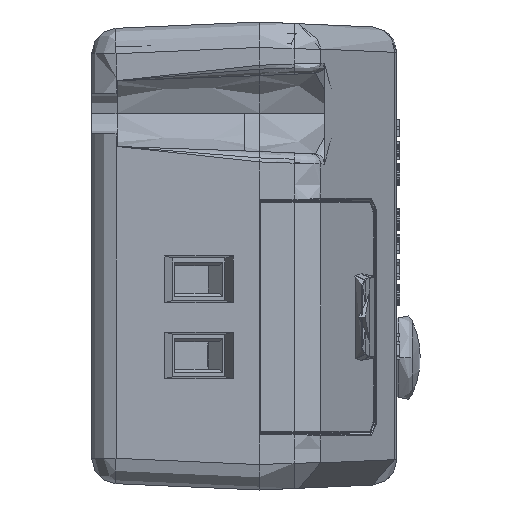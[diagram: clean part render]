
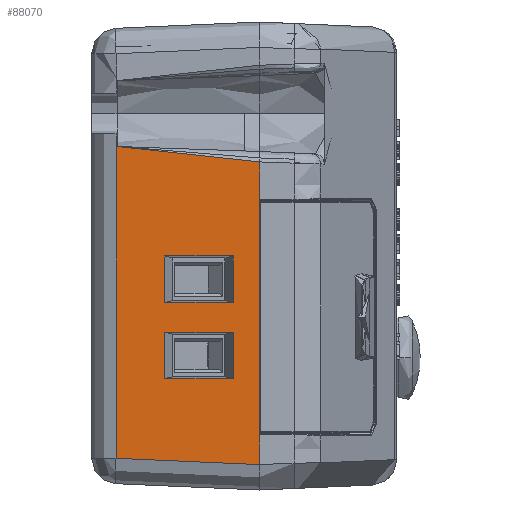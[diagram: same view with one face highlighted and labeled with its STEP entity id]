
A CAD part, left-side view. The second image highlights one B-rep face of the part: STEP entity #88070.
In plain terms, the highlighted planar face has unit normal (-0.999, 0.044, 0) as drawn and (0.999, 0.044, 0) by its records, which use the part's own axes.
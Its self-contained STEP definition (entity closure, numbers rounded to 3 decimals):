
#63710=CARTESIAN_POINT('',(62.436,-11.,
25.487));
#63720=VERTEX_POINT('',#63710);
#63750=CARTESIAN_POINT('',(62.436,-11.,-1.284));
#63760=DIRECTION('',(0.,0.,1.));
#63770=VECTOR('',#63760,1.);
#63780=LINE('',#63750,#63770);
#63790=CARTESIAN_POINT('',(62.436,-11.,
2.394));
#63800=VERTEX_POINT('',#63790);
#63810=EDGE_CURVE('',#63800,#63720,#63780,.T.);
#85600=CARTESIAN_POINT('',(61.82,3.109,
27.85));
#85610=VERTEX_POINT('',#85600);
#86210=CARTESIAN_POINT('',(61.82,3.109,-4.036
));
#86220=DIRECTION('',(0.,0.001,
1.));
#86230=VECTOR('',#86220,1.);
#86240=LINE('',#86210,#86230);
#86250=CARTESIAN_POINT('',(61.82,3.109,-4.036
));
#86260=VERTEX_POINT('',#86250);
#86270=CARTESIAN_POINT('',(61.82,3.11,-2.472
));
#86280=VERTEX_POINT('',#86270);
#86290=EDGE_CURVE('',#86260,#86280,#86240,.T.);
#86310=CARTESIAN_POINT('',(61.82,3.109,27.85)
);
#86320=DIRECTION('',(0.,0.,
-1.));
#86330=VECTOR('',#86320,1.);
#86340=LINE('',#86310,#86330);
#86350=EDGE_CURVE('',#85610,#86280,#86340,.T.);
#86810=CARTESIAN_POINT('',(61.672,6.5,-19.623));
#86820=DIRECTION('',(0.999,0.044,0.));
#86830=DIRECTION('',(0.,0.,-1.));
#86840=AXIS2_PLACEMENT_3D('',#86810,#86820,#86830);
#86850=PLANE('',#86840);
#86860=CARTESIAN_POINT('',(62.436,-11.,0.));
#86870=DIRECTION('',(0.,0.,1.));
#86880=VECTOR('',#86870,1.);
#86890=LINE('',#86860,#86880);
#86900=CARTESIAN_POINT('',(62.436,-11.,
-1.284));
#86910=VERTEX_POINT('',#86900);
#86920=EDGE_CURVE('',#86910,#63800,#86890,.T.);
#86930=ORIENTED_EDGE('',*,*,#86920,.F.);
#86940=ORIENTED_EDGE('',*,*,#63810,.F.);
#86950=CARTESIAN_POINT('',(62.436,-11.,0.));
#86960=DIRECTION('',(0.,0.,1.));
#86970=VECTOR('',#86960,1.);
#86980=LINE('',#86950,#86970);
#86990=CARTESIAN_POINT('',(62.436,-11.,
25.534));
#87000=VERTEX_POINT('',#86990);
#87010=EDGE_CURVE('',#63720,#87000,#86980,.T.);
#87020=ORIENTED_EDGE('',*,*,#87010,.F.);
#87030=CARTESIAN_POINT('',(62.436,-11.,
28.466));
#87040=VERTEX_POINT('',#87030);
#87050=EDGE_CURVE('',#87000,#87040,#86980,.T.);
#87060=ORIENTED_EDGE('',*,*,#87050,.F.);
#87070=CARTESIAN_POINT('',(61.951,0.109,
27.981));
#87080=DIRECTION('',(0.044,-0.998,
0.044));
#87090=VECTOR('',#87080,1.);
#87100=LINE('',#87070,#87090);
#87110=EDGE_CURVE('',#85610,#87040,#87100,.T.);
#87120=ORIENTED_EDGE('',*,*,#87110,.T.);
#87130=ORIENTED_EDGE('',*,*,#86350,.F.);
#87140=ORIENTED_EDGE('',*,*,#86290,.T.);
#87150=CARTESIAN_POINT('',(61.82,3.109,-4.036
));
#87160=DIRECTION('',(0.044,-0.999,
0.));
#87170=VECTOR('',#87160,1.);
#87180=LINE('',#87150,#87170);
#87190=CARTESIAN_POINT('',(61.824,3.011,-4.036
));
#87200=VERTEX_POINT('',#87190);
#87210=EDGE_CURVE('',#86260,#87200,#87180,.T.);
#87220=ORIENTED_EDGE('',*,*,#87210,.F.);
#87230=CARTESIAN_POINT('',(61.824,3.011,-4.036
));
#87240=DIRECTION('',(0.,0.,1.));
#87250=VECTOR('',#87240,1.);
#87260=LINE('',#87230,#87250);
#87270=CARTESIAN_POINT('',(61.824,3.011,
-2.799));
#87280=VERTEX_POINT('',#87270);
#87290=EDGE_CURVE('',#87200,#87280,#87260,.T.);
#87300=ORIENTED_EDGE('',*,*,#87290,.F.);
#87310=CARTESIAN_POINT('',(62.436,-11.,-1.284));
#87320=DIRECTION('',(-0.043,0.993,
-0.107));
#87330=VECTOR('',#87320,1.);
#87340=LINE('',#87310,#87330);
#87350=EDGE_CURVE('',#86910,#87280,#87340,.T.);
#87360=ORIENTED_EDGE('',*,*,#87350,.T.);
#87370=EDGE_LOOP('',(#87360,#87300,#87220,#87140,#87130,#87120,#87060,
#87020,#86940,#86930));
#87380=FACE_OUTER_BOUND('',#87370,.T.);
#87390=CARTESIAN_POINT('',(62.029,-1.671,20.027
));
#87400=DIRECTION('',(0.,0.,-1.));
#87410=VECTOR('',#87400,1.);
#87420=LINE('',#87390,#87410);
#87430=CARTESIAN_POINT('',(62.029,-1.671,20.027
));
#87440=VERTEX_POINT('',#87430);
#87450=CARTESIAN_POINT('',(62.029,-1.671,15.441
));
#87460=VERTEX_POINT('',#87450);
#87470=EDGE_CURVE('',#87440,#87460,#87420,.T.);
#87480=ORIENTED_EDGE('',*,*,#87470,.T.);
#87490=CARTESIAN_POINT('',(62.324,-8.431,20.032
));
#87500=DIRECTION('',(-0.044,0.999,
-0.001));
#87510=VECTOR('',#87500,1.);
#87520=LINE('',#87490,#87510);
#87530=CARTESIAN_POINT('',(62.324,-8.431,20.032
));
#87540=VERTEX_POINT('',#87530);
#87550=EDGE_CURVE('',#87540,#87440,#87520,.T.);
#87560=ORIENTED_EDGE('',*,*,#87550,.T.);
#87570=CARTESIAN_POINT('',(62.324,-8.431,15.436
));
#87580=DIRECTION('',(0.,0.,1.));
#87590=VECTOR('',#87580,1.);
#87600=LINE('',#87570,#87590);
#87610=CARTESIAN_POINT('',(62.324,-8.431,15.436
));
#87620=VERTEX_POINT('',#87610);
#87630=EDGE_CURVE('',#87620,#87540,#87600,.T.);
#87640=ORIENTED_EDGE('',*,*,#87630,.T.);
#87650=CARTESIAN_POINT('',(62.029,-1.671,15.441
));
#87660=DIRECTION('',(0.044,-0.999,
-0.001));
#87670=VECTOR('',#87660,1.);
#87680=LINE('',#87650,#87670);
#87690=EDGE_CURVE('',#87460,#87620,#87680,.T.);
#87700=ORIENTED_EDGE('',*,*,#87690,.T.);
#87710=EDGE_LOOP('',(#87700,#87640,#87560,#87480));
#87720=FACE_BOUND('',#87710,.T.);
#87730=CARTESIAN_POINT('',(62.324,-8.431,7.958
));
#87740=DIRECTION('',(0.,0.,1.));
#87750=VECTOR('',#87740,1.);
#87760=LINE('',#87730,#87750);
#87770=CARTESIAN_POINT('',(62.324,-8.431,7.958
));
#87780=VERTEX_POINT('',#87770);
#87790=CARTESIAN_POINT('',(62.324,-8.431,12.554
));
#87800=VERTEX_POINT('',#87790);
#87810=EDGE_CURVE('',#87780,#87800,#87760,.T.);
#87820=ORIENTED_EDGE('',*,*,#87810,.T.);
#87830=CARTESIAN_POINT('',(62.029,-1.671,7.963
));
#87840=DIRECTION('',(0.044,-0.999,
-0.001));
#87850=VECTOR('',#87840,1.);
#87860=LINE('',#87830,#87850);
#87870=CARTESIAN_POINT('',(62.029,-1.671,7.963
));
#87880=VERTEX_POINT('',#87870);
#87890=EDGE_CURVE('',#87880,#87780,#87860,.T.);
#87900=ORIENTED_EDGE('',*,*,#87890,.T.);
#87910=CARTESIAN_POINT('',(62.029,-1.671,12.548
));
#87920=DIRECTION('',(0.,0.,-1.));
#87930=VECTOR('',#87920,1.);
#87940=LINE('',#87910,#87930);
#87950=CARTESIAN_POINT('',(62.029,-1.671,12.548
));
#87960=VERTEX_POINT('',#87950);
#87970=EDGE_CURVE('',#87960,#87880,#87940,.T.);
#87980=ORIENTED_EDGE('',*,*,#87970,.T.);
#87990=CARTESIAN_POINT('',(62.324,-8.431,12.554
));
#88000=DIRECTION('',(-0.044,0.999,
-0.001));
#88010=VECTOR('',#88000,1.);
#88020=LINE('',#87990,#88010);
#88030=EDGE_CURVE('',#87800,#87960,#88020,.T.);
#88040=ORIENTED_EDGE('',*,*,#88030,.T.);
#88050=EDGE_LOOP('',(#88040,#87980,#87900,#87820));
#88060=FACE_BOUND('',#88050,.T.);
#88070=ADVANCED_FACE('',(#87380,#87720,#88060),#86850,.T.);
